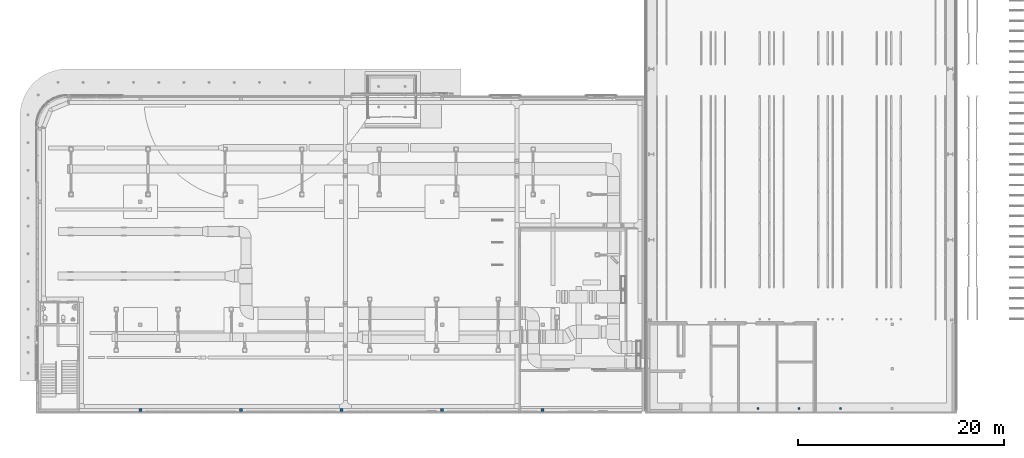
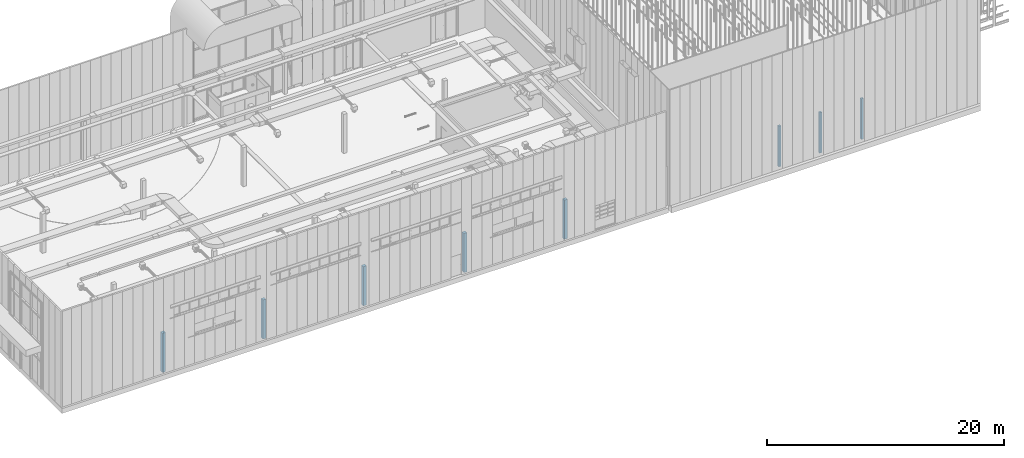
# One storey, part 1 of 302: 8 columns.
"""IFC2X3 building model written with IfcOpenShell, lengths in metres."""

from ifc_helpers import new_model, entity, si_unit, converted_unit, derived_unit, direction, frame, origin, origin_2d_with_axis, place, context, subcontext, project, spatial, rectangle, extrude, source, transform, mapped, material, type_object, type_shapes, element, save


model = new_model("IFC2X3")

# Units and contexts
model_context = context("Model", 3, precision=1e-05, world=origin(), true_north=direction((6.12303176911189e-17, 1.0)))
body_context = subcontext(model_context, "Body", "Model", "MODEL_VIEW")
ifc_project = project(units=[si_unit("LENGTHUNIT", "METRE"), si_unit("AREAUNIT", "SQUARE_METRE"), si_unit("VOLUMEUNIT", "CUBIC_METRE"), converted_unit("PLANEANGLEUNIT", "DEGREE", entity("IfcRatioMeasure", 0.0174532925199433), si_unit("PLANEANGLEUNIT", "RADIAN"), dimensions=[0, 0, 0, 0, 0, 0, 0]), si_unit("MASSUNIT", "GRAM", prefix="KILO"), derived_unit("MASSDENSITYUNIT", [(si_unit("MASSUNIT", "GRAM", prefix="KILO"), 1), (si_unit("LENGTHUNIT", "METRE"), -3)]), derived_unit("MOMENTOFINERTIAUNIT", [(si_unit("LENGTHUNIT", "METRE"), 4)]), si_unit("TIMEUNIT", "SECOND"), si_unit("FREQUENCYUNIT", "HERTZ"), si_unit("THERMODYNAMICTEMPERATUREUNIT", "DEGREE_CELSIUS"), derived_unit("THERMALTRANSMITTANCEUNIT", [(si_unit("MASSUNIT", "GRAM", prefix="KILO"), 1), (si_unit("THERMODYNAMICTEMPERATUREUNIT", "KELVIN"), -1), (si_unit("TIMEUNIT", "SECOND"), -3)]), derived_unit("VOLUMETRICFLOWRATEUNIT", [(si_unit("LENGTHUNIT", "METRE"), 3), (si_unit("TIMEUNIT", "SECOND"), -1)]), si_unit("ELECTRICCURRENTUNIT", "AMPERE"), si_unit("ELECTRICVOLTAGEUNIT", "VOLT"), si_unit("POWERUNIT", "WATT"), si_unit("FORCEUNIT", "NEWTON", prefix="KILO"), si_unit("ILLUMINANCEUNIT", "LUX"), si_unit("LUMINOUSFLUXUNIT", "LUMEN"), si_unit("LUMINOUSINTENSITYUNIT", "CANDELA"), derived_unit("USERDEFINED", [(si_unit("MASSUNIT", "GRAM", prefix="KILO"), -1), (si_unit("LENGTHUNIT", "METRE"), -2), (si_unit("TIMEUNIT", "SECOND"), 3), (si_unit("LUMINOUSFLUXUNIT", "LUMEN"), 1)]), derived_unit("LINEARVELOCITYUNIT", [(si_unit("LENGTHUNIT", "METRE"), 1), (si_unit("TIMEUNIT", "SECOND"), -1)]), si_unit("PRESSUREUNIT", "PASCAL"), derived_unit("USERDEFINED", [(si_unit("LENGTHUNIT", "METRE"), -2), (si_unit("MASSUNIT", "GRAM", prefix="KILO"), 1), (si_unit("TIMEUNIT", "SECOND"), -2)]), derived_unit("LINEARFORCEUNIT", [(si_unit("MASSUNIT", "GRAM", prefix="KILO"), 1), (si_unit("LENGTHUNIT", "METRE"), 1), (si_unit("TIMEUNIT", "SECOND"), -2), (si_unit("LENGTHUNIT", "METRE"), -1)]), derived_unit("PLANARFORCEUNIT", [(si_unit("MASSUNIT", "GRAM", prefix="KILO"), 1), (si_unit("LENGTHUNIT", "METRE"), 1), (si_unit("TIMEUNIT", "SECOND"), -2), (si_unit("LENGTHUNIT", "METRE"), -2)])], contexts=[model_context])

# Site, building, storey
site_placement = place(None, origin())
site = spatial("IfcSite", under=ifc_project, at=site_placement, Name="Default", CompositionType="ELEMENT")
building_placement = place(site_placement, origin())
building = spatial("IfcBuilding", under=site, at=building_placement, CompositionType="ELEMENT")
storey_placement = place(building_placement, frame((0.0, 0.0, -1.3)))
storey = spatial("IfcBuildingStorey", under=building, at=storey_placement, Name="00_EG", CompositionType="ELEMENT", Elevation=-1.3)

# Columns
ifc_material = material(Name="Ortbeton -Stütze")
column_type_1 = type_object("IfcColumnType", Name="STB Stütze - rechteckig:Stütze 300 x 300", PredefinedType="COLUMN", material=ifc_material)
shared_shape_1 = source(origin(), body_context, "Body", "SweptSolid", [
    extrude(rectangle(XDim=0.3, YDim=0.3, at=origin_2d_with_axis()), frame((0.0, 0.0, -0.0300000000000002), z_axis=(0.0, 0.0, 1.0), x_axis=(0.0, -1.0, 0.0)), (0.0, 0.0, 1.0), 4.03),
])
type_shapes(column_type_1, [shared_shape_1])
for number, where in (
    (1, (-256.722611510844, 15.1480889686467, 1.3)),
    (2, (-246.935111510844, 15.1480889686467, 1.3)),
    (3, (-237.147611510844, 15.1480889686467, 1.3)),
    (4, (-227.360111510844, 15.1480889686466, 1.3)),
    (5, (-217.572611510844, 15.1480889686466, 1.3)),
):
    element("IfcColumn", number, at=place(storey_placement, frame(where)), inside=storey, type_object=column_type_1, material=ifc_material, Name="STB Stütze - rechteckig:Stütze 300 x 300", ObjectType="STB Stütze - rechteckig:Stütze 300 x 300", context=body_context, shape_type="MappedRepresentation", body=[
        mapped(shared_shape_1, transform((0.0, 0.0, 0.0), scale=1.0)),
    ])
column_type_2 = type_object("IfcColumnType", Name="STB Stütze - rechteckig:Stütze 200 x 200", PredefinedType="COLUMN", material=ifc_material)
shared_shape_2 = source(origin(), body_context, "Body", "SweptSolid", [
    extrude(rectangle(XDim=0.2, YDim=0.2, at=origin_2d_with_axis()), frame((0.0, 0.0, -0.0300000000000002), z_axis=(0.0, 0.0, 1.0), x_axis=(0.0, -1.0, 0.0)), (0.0, 0.0, 1.0), 4.18),
])
type_shapes(column_type_2, [shared_shape_2])
for number, where in (
    (6, (-196.618437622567, 15.2872628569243, 1.3)),
    (7, (-192.622611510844, 15.2872628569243, 1.3)),
    (8, (-188.570111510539, 15.2872628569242, 1.3)),
):
    element("IfcColumn", number, at=place(storey_placement, frame(where)), inside=storey, type_object=column_type_2, material=ifc_material, Name="STB Stütze - rechteckig:Stütze 200 x 200", ObjectType="STB Stütze - rechteckig:Stütze 200 x 200", context=body_context, shape_type="MappedRepresentation", body=[
        mapped(shared_shape_2, transform((0.0, 0.0, 0.0), scale=1.0)),
    ])

save(model, "model.ifc")
